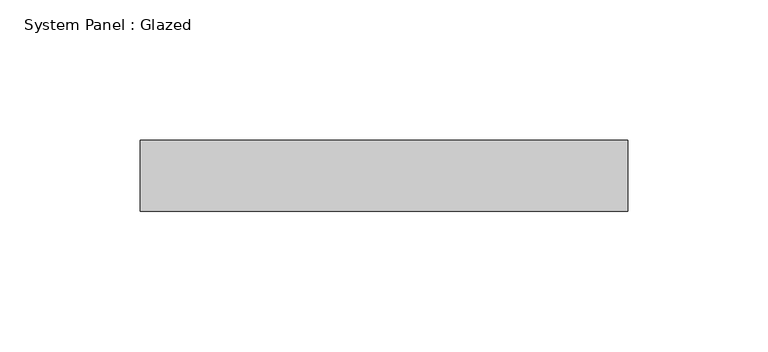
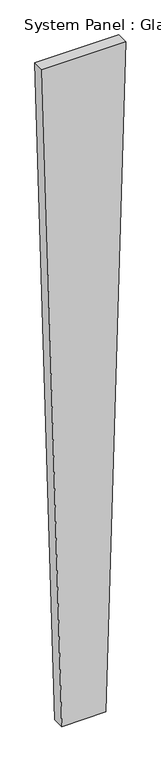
"""IFC4 building model written with IfcOpenShell, lengths in millimetres: plate geometry, System Panel : Glazed."""

from ifc_helpers import new_model, si_unit, frame, origin, place, context, project, spatial, polyline, outline, extrude, source, transform, mapped, element, save


def system_panel_glazed_4ea4b272(model_context):
    return source(origin(), model_context, "Body", "SweptSolid", [
        extrude(outline(polyline([(0.0, -45.8880961), (0.0, 45.8880961), (1459.8930228, 87.1034953), (1459.8930228, -87.1034953), (0.0, -45.8880961)])), frame((0.0, -44.45, 0.0), z_axis=(0.0, 1.0, 0.0), x_axis=(0.0, 0.0, 1.0)), (0.0, 0.0, 1.0), 25.4),
    ])


if __name__ == "__main__":
    model = new_model("IFC4")
    model_context = context("Model", 3, world=origin())
    ifc_project = project(units=[si_unit("LENGTHUNIT", "METRE", prefix="MILLI")], contexts=[model_context])
    site = spatial("IfcSite", under=ifc_project)
    building = spatial("IfcBuilding", under=site)
    placement = place(None, origin())
    system_panel_glazed_shape = system_panel_glazed_4ea4b272(model_context)
    element("IfcPlate", 1, ObjectType="System Panel : Glazed", at=placement, inside=building, context=model_context, shape_type="MappedRepresentation", body=[
        mapped(system_panel_glazed_shape, transform((0.0, 0.0, 0.0), x_axis=(1.0, 0.0, 0.0), y_axis=(0.0, 1.0, 0.0), z_axis=(0.0, 0.0, 1.0))),
    ])
    save(model, "model.ifc")
